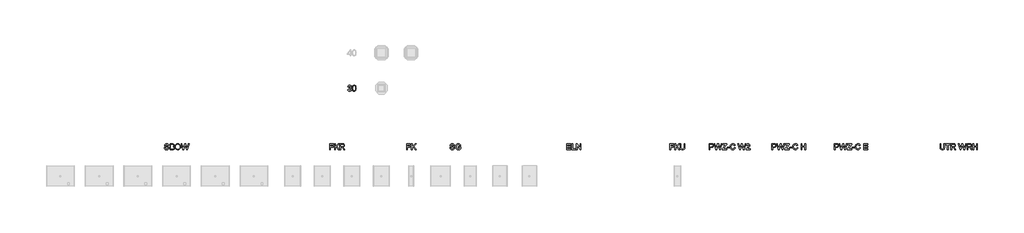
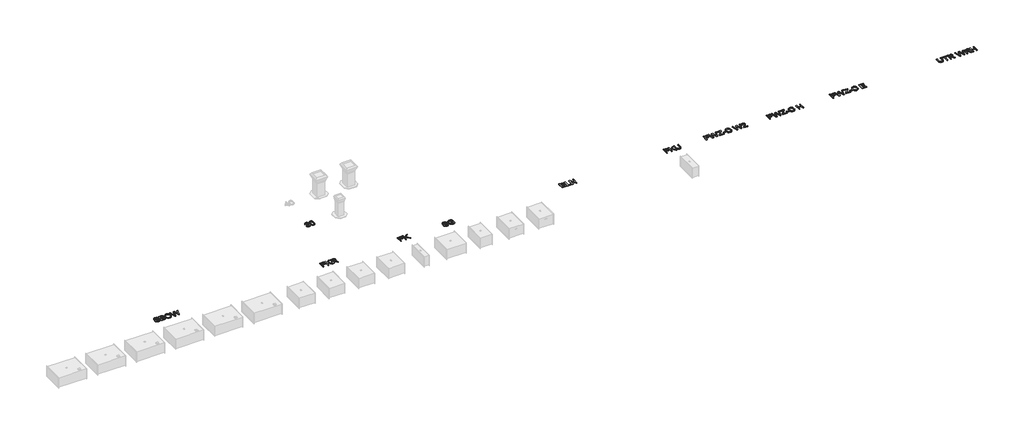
# One storey, part 7 of 9: 11 proxies.
"""IFC4 building model written with IfcOpenShell, lengths in millimetres."""

from ifc_helpers import new_model, si_unit, origin, origin_with_axes, place, context, project, spatial, polyline, outline, extrude, element, save

model = new_model("IFC4")

# Units and contexts
model_context = context("Model", 3, world=origin())
ifc_project = project(units=[si_unit("LENGTHUNIT", "METRE", prefix="MILLI")], contexts=[model_context])

# Site, building, storey
site = spatial("IfcSite", under=ifc_project)
building = spatial("IfcBuilding", under=site)
storey = spatial("IfcBuildingStorey", under=building, Name="KORF_Уровень 1", Elevation=0.0)

# Proxies
placement = place(None, origin())
element("IfcBuildingElementProxy", 1, Name="Текст модели 1", ObjectType="Текст модели 1", at=placement, inside=storey, context=model_context, shape_type="SweptSolid", body=[
    extrude(outline(polyline([(30488.5496219, -4242.5702672), (30488.5496219, -3941.2013368), (30691.0318721, -3941.2013368), (30691.0318721, -3978.8724531), (30526.2207382, -3978.8724531), (30526.2207382, -4068.3413543), (30667.4874244, -4068.3413543), (30667.4874244, -4106.0124706), (30526.2207382, -4106.0124706), (30526.2207382, -4242.5702672), (30488.5496219, -4242.5702672)])), origin_with_axes(), (0.0, 0.0, 1.0), 30.0),
    extrude(outline(polyline([(30742.829657, -4242.5702672), (30742.829657, -3941.2013368), (30780.5007733, -3941.2013368), (30780.5007733, -4088.7220168), (30935.0112113, -3941.2013368), (30987.691913, -3941.2013368), (30857.9767215, -4065.1039927), (30992.4008025, -4242.5702672), (30946.3419767, -4242.5702672), (30831.2684886, -4090.5614268), (30780.5007733, -4138.9746974), (30780.5007733, -4242.5702672), (30742.829657, -4242.5702672)])), origin_with_axes(), (0.0, 0.0, 1.0), 30.0),
    extrude(outline(polyline([(31020.6541397, -4242.5702672), (31020.6541397, -3941.2013368), (31150.516484, -3941.2013368), (31185.4192883, -3943.2338848), (31210.8123431, -3949.3315289), (31229.3719897, -3960.5887179), (31243.7745698, -3978.0999009), (31253.0176049, -3999.8141356), (31256.0986167, -4023.6804801), (31250.994254, -4053.3685571), (31235.6811659, -4077.9798626), (31224.0813868, -4088.0092455), (31209.6995, -4096.0244744), (31172.5894038, -4106.0124706), (31194.0001359, -4122.125702), (31224.5343415, -4160.9004643), (31274.787022, -4242.5702672), (31231.0090646, -4242.5702672), (31191.7928439, -4180.1039044), (31163.4659303, -4138.7539682), (31143.5635143, -4119.2194342), (31125.6476612, -4112.0457353), (31103.7954707, -4110.7213601), (31058.3252561, -4110.7213601), (31058.3252561, -4242.5702672), (31020.6541397, -4242.5702672)]), holes=[polyline([(31058.3252561, -4073.0502438), (31142.6438093, -4073.0502438), (31166.8596417, -4071.7166716), (31185.6492146, -4067.7159549), (31199.7942773, -4060.7813793), (31210.0765791, -4050.6462303), (31216.33977, -4038.3865628), (31218.4275004, -4025.0784317), (31214.4451778, -4006.702726), (31202.49821, -3991.8954757), (31181.9428035, -3982.1282087), (31152.1351648, -3978.8724531), (31058.3252561, -3978.8724531), (31058.3252561, -4073.0502438)])]), origin_with_axes(), (0.0, 0.0, 1.0), 30.0),
])
element("IfcBuildingElementProxy", 2, Name="Текст модели 1", ObjectType="Текст модели 1", at=placement, inside=storey, context=model_context, shape_type="SweptSolid", body=[
    extrude(outline(polyline([(21947.1824062, -4138.9746974), (21984.8535225, -4138.9746974), (21989.176136, -4159.8795918), (21996.9936284, -4176.6826019), (22009.1889165, -4190.0183242), (22026.6449172, -4200.5213552), (22047.9820729, -4207.3363691), (22071.8208262, -4209.6080404), (22092.808494, -4207.8881921), (22111.1841997, -4202.7286471), (22126.0742234, -4194.5616668), (22136.6048456, -4183.8195126), (22142.8680365, -4171.4862687), (22144.9557668, -4158.5460195), (22143.3922684, -4145.9368641), (22138.7017729, -4135.03836), (22129.1736293, -4125.7401426), (22113.0971861, -4117.9318473), (22058.2459806, -4103.5476612), (22022.2395303, -4094.0287146), (21999.2009204, -4084.9696205), (21980.4481357, -4072.2960857), (21967.1583986, -4056.9370125), (21959.2397386, -4039.2234944), (21956.6001853, -4019.4866253), (21959.865138, -3997.4229027), (21969.6599961, -3976.8491021), (21985.7272423, -3959.4114955), (22007.809359, -3946.7563549), (22034.3152568, -3939.0584241), (22063.6538459, -3936.4924472), (22095.4388503, -3939.1779858), (22123.2507291, -3947.2346015), (22146.096201, -3960.4967474), (22162.9819846, -3978.7988767), (22173.6689566, -4001.0005551), (22177.9179936, -4025.9613485), (22140.2468773, -4025.9613485), (22133.3306958, -4003.4837586), (22118.9097216, -3987.2601626), (22096.3769494, -3977.4377133), (22065.1253739, -3974.1635635), (22033.1380344, -3977.4009251), (22011.1938734, -3987.1130098), (21998.5019446, -4001.4052253), (21994.2713016, -4018.3829794), (21997.2695399, -4032.8591359), (22006.2642547, -4044.502601), (22027.527834, -4054.9136615), (22067.7741243, -4065.5454511), (22109.3080015, -4075.6438119), (22134.4343418, -4084.4545857), (22155.9094533, -4098.1214018), (22170.8914475, -4114.9887913), (22179.6930242, -4134.8728131), (22182.6268832, -4157.5895263), (22179.2515658, -4180.8120773), (22169.1256139, -4202.6550707), (22152.6628946, -4221.4538407), (22130.2772752, -4235.5437211), (22103.3575102, -4244.3452978), (22073.2923542, -4247.2791568), (22036.384593, -4244.1153716), (22006.0067373, -4234.6240161), (21981.809299, -4218.7683021), (21963.4427904, -4196.5114414), (21951.6521725, -4169.3985384), (21947.1824062, -4138.9746974)])), origin_with_axes(), (0.0, 0.0, 1.0), 30.0),
    extrude(outline(polyline([(22239.1335576, -4242.5702672), (22239.1335576, -3941.2013368), (22354.1334693, -3941.2013368), (22385.7621238, -3943.4178258), (22410.4562028, -3950.0672929), (22429.3837314, -3961.3152849), (22443.7127351, -3977.3273487), (22452.7350411, -3996.1629068), (22455.7424764, -4015.8813818), (22453.2132877, -4034.0271612), (22445.6257215, -4051.0876887), (22432.9245956, -4066.0145007), (22415.0547277, -4077.7591334), (22436.4010805, -4088.9059578), (22452.174021, -4105.8653178), (22461.9136968, -4127.5151732), (22465.1602554, -4152.733484), (22462.9437664, -4173.748743), (22456.2942994, -4193.2372917), (22446.3706825, -4209.8103755), (22434.3317443, -4222.0792401), (22419.5888733, -4230.9635903), (22401.5534585, -4237.3831311), (22353.2505525, -4242.5702672), (22239.1335576, -4242.5702672)]), holes=[polyline([(22276.8046739, -4063.6324648), (22345.598607, -4063.6324648), (22385.7713209, -4060.3951032), (22399.8336102, -4054.8124939), (22409.941168, -4046.4523756), (22416.038812, -4035.4435069), (22418.0713601, -4021.9146465), (22416.1767678, -4008.7812593), (22410.492991, -3997.3401292), (22401.277547, -3988.4097938), (22388.7879532, -3982.8087904), (22340.3746827, -3978.8724531), (22276.8046739, -3978.8724531), (22276.8046739, -4063.6324648)]), polyline([(22276.8046739, -4204.8991509), (22354.0598929, -4204.8991509), (22382.0189245, -4203.4276229), (22405.6737368, -4195.2238544), (22421.3455098, -4178.4852237), (22425.9532318, -4166.6578175), (22427.4891391, -4153.101366), (22425.6865174, -4137.3560166), (22420.278652, -4123.8179592), (22410.8332818, -4113.2321548), (22396.9181453, -4106.3435644), (22377.2088675, -4102.5635769), (22350.381073, -4101.3035811), (22276.8046739, -4101.3035811), (22276.8046739, -4204.8991509)])]), origin_with_axes(), (0.0, 0.0, 1.0), 30.0),
    extrude(outline(polyline([(22502.8313718, -4095.8589275), (22505.3421664, -4060.5100663), (22512.8745502, -4029.2171041), (22525.4285233, -4001.9800409), (22543.0040856, -3978.7988767), (22564.548175, -3960.2898138), (22589.0077291, -3947.0690546), (22616.3827481, -3939.1365991), (22646.6732319, -3936.4924472), (22686.2021522, -3941.4588542), (22721.6475825, -3956.358075), (22751.0781421, -3980.141646), (22772.5624506, -4011.7611034), (22785.6958378, -4049.6897371), (22790.0736336, -4092.4008368), (22785.4659116, -4135.6821535), (22771.6427456, -4174.1442161), (22749.3674908, -4205.8188559), (22719.4035023, -4228.7379042), (22684.2615747, -4242.6438436), (22646.4525027, -4247.2791568), (22606.316577, -4242.1564), (22570.6688117, -4226.7881296), (22541.3118284, -4202.5631002), (22520.0482491, -4170.8700664), (22507.1355911, -4134.4037636), (22502.8313718, -4095.8589275)]), holes=[polyline([(22540.5024881, -4096.2268095), (22542.385584, -4121.2013985), (22548.0348719, -4143.3708872), (22557.4503517, -4162.7352757), (22570.6320235, -4179.294564), (22586.6555836, -4192.55671), (22604.5967287, -4202.0296713), (22624.4554586, -4207.7134482), (22646.2317735, -4209.6080404), (22668.3805688, -4207.6950541), (22688.4738236, -4201.9560949), (22706.5115376, -4192.3911631), (22722.4937111, -4179.0002584), (22735.5788138, -4162.0914822), (22744.9253157, -4141.9729356), (22750.5332169, -4118.6446186), (22752.4025173, -4092.1065312), (22749.2019439, -4058.7580283), (22739.6002238, -4029.934474), (22723.8456774, -4006.3624352), (22702.1866249, -3988.7684787), (22676.0578062, -3977.8147923), (22646.8939611, -3974.1635635), (22625.8741036, -3975.9224993), (22606.3717593, -3981.1993067), (22588.3869283, -3989.9939856), (22571.9196104, -4002.3065362), (22558.1746194, -4018.730168), (22548.3567687, -4039.8580908), (22542.4660582, -4065.6903047), (22540.5024881, -4096.2268095)])]), origin_with_axes(), (0.0, 0.0, 1.0), 30.0),
    extrude(outline(polyline([(22895.802919, -4242.5702672), (22813.6180813, -3941.2013368), (22852.46642, -3941.2013368), (22900.1439265, -4139.269003), (22914.8592064, -4200.4109906), (22930.6045557, -4146.3323373), (22990.3485918, -3941.2013368), (23046.3402314, -3941.2013368), (23089.7503069, -4089.8992392), (23108.3467417, -4145.0815385), (23122.050346, -4200.4109906), (23136.3241674, -4141.0348365), (23184.4431324, -3941.2013368), (23223.2914711, -3941.2013368), (23141.033057, -4242.5702672), (23100.7867667, -4242.5702672), (23028.5347429, -4010.0688463), (23018.4547762, -3977.6216543), (23007.1240107, -4016.6907222), (22941.2731336, -4242.5702672), (22895.802919, -4242.5702672)])), origin_with_axes(), (0.0, 0.0, 1.0), 30.0),
])
element("IfcBuildingElementProxy", 3, Name="Текст модели 1", ObjectType="Текст модели 1", at=placement, inside=storey, context=model_context, shape_type="SweptSolid", body=[
    extrude(outline(polyline([(34462.4386518, -4242.5702672), (34462.4386518, -3941.2013368), (34664.9209019, -3941.2013368), (34664.9209019, -3978.8724531), (34500.1097681, -3978.8724531), (34500.1097681, -4068.3413543), (34641.3764542, -4068.3413543), (34641.3764542, -4106.0124706), (34500.1097681, -4106.0124706), (34500.1097681, -4242.5702672), (34462.4386518, -4242.5702672)])), origin_with_axes(), (0.0, 0.0, 1.0), 30.0),
    extrude(outline(polyline([(34716.7186868, -4242.5702672), (34716.7186868, -3941.2013368), (34754.3898031, -3941.2013368), (34754.3898031, -4088.7220168), (34908.9002411, -3941.2013368), (34961.5809428, -3941.2013368), (34831.8657513, -4065.1039927), (34966.2898324, -4242.5702672), (34920.2310066, -4242.5702672), (34805.1575185, -4090.5614268), (34754.3898031, -4138.9746974), (34754.3898031, -4242.5702672), (34716.7186868, -4242.5702672)])), origin_with_axes(), (0.0, 0.0, 1.0), 30.0),
])
element("IfcBuildingElementProxy", 4, Name="Текст модели 1", ObjectType="Текст модели 1", at=placement, inside=storey, context=model_context, shape_type="SweptSolid", body=[
    extrude(outline(polyline([(36706.9180504, -4138.9746974), (36744.5891667, -4138.9746974), (36748.9117801, -4159.8795918), (36756.7292725, -4176.6826019), (36768.9245607, -4190.0183242), (36786.3805613, -4200.5213552), (36807.7177171, -4207.3363691), (36831.5564703, -4209.6080404), (36852.5441382, -4207.8881921), (36870.9198438, -4202.7286471), (36885.8098676, -4194.5616668), (36896.3404897, -4183.8195126), (36902.6036807, -4171.4862687), (36904.691411, -4158.5460195), (36903.1279125, -4145.9368641), (36898.4374171, -4135.03836), (36888.9092734, -4125.7401426), (36872.8328302, -4117.9318473), (36817.9816247, -4103.5476612), (36781.9751744, -4094.0287146), (36758.9365645, -4084.9696205), (36740.1837798, -4072.2960857), (36726.8940427, -4056.9370125), (36718.9753828, -4039.2234944), (36716.3358295, -4019.4866253), (36719.6007822, -3997.4229027), (36729.3956403, -3976.8491021), (36745.4628864, -3959.4114955), (36767.5450032, -3946.7563549), (36794.0509009, -3939.0584241), (36823.3894901, -3936.4924472), (36855.1744944, -3939.1779858), (36882.9863733, -3947.2346015), (36905.8318452, -3960.4967474), (36922.7176287, -3978.7988767), (36933.4046007, -4001.0005551), (36937.6536378, -4025.9613485), (36899.9825214, -4025.9613485), (36893.0663399, -4003.4837586), (36878.6453657, -3987.2601626), (36856.1125935, -3977.4377133), (36824.861018, -3974.1635635), (36792.8736786, -3977.4009251), (36770.9295175, -3987.1130098), (36758.2375887, -4001.4052253), (36754.0069458, -4018.3829794), (36757.005184, -4032.8591359), (36765.9998988, -4044.502601), (36787.2634781, -4054.9136615), (36827.5097684, -4065.5454511), (36869.0436457, -4075.6438119), (36894.1699859, -4084.4545857), (36915.6450974, -4098.1214018), (36930.6270916, -4114.9887913), (36939.4286684, -4134.8728131), (36942.3625273, -4157.5895263), (36938.98721, -4180.8120773), (36928.8612581, -4202.6550707), (36912.3985388, -4221.4538407), (36890.0129194, -4235.5437211), (36863.0931544, -4244.3452978), (36833.0279983, -4247.2791568), (36796.1202372, -4244.1153716), (36765.7423814, -4234.6240161), (36741.5449432, -4218.7683021), (36723.1784346, -4196.5114414), (36711.3878166, -4169.3985384), (36706.9180504, -4138.9746974)])), origin_with_axes(), (0.0, 0.0, 1.0), 30.0),
    extrude(outline(polyline([(37140.1358879, -4124.8480288), (37140.1358879, -4087.1769125), (37262.5670159, -4087.1769125), (37262.5670159, -4199.8223794), (37232.8145595, -4220.5157416), (37202.1240041, -4235.3597801), (37170.5689259, -4244.2993126), (37138.2229015, -4247.2791568), (37095.9624573, -4242.5426761), (37057.7671092, -4228.333234), (37026.0372871, -4205.1474713), (37003.1734211, -4173.4820285), (36989.3502551, -4135.4982125), (36984.7425331, -4093.35733), (36989.331861, -4050.9129448), (37003.0998447, -4011.4300096), (37025.4762671, -3978.311433), (37055.890911, -3954.9601234), (37092.9366279, -3941.1093663), (37135.2062692, -3936.4924472), (37166.2371155, -3939.1687887), (37194.1409648, -3947.1978133), (37217.6394272, -3960.0001067), (37235.4541128, -3976.9962549), (37248.6334853, -3999.0047953), (37258.2260084, -4026.8442652), (37223.497948, -4036.6299263), (37215.744835, -4016.7734956), (37206.3178588, -4001.7915014), (37193.8466592, -3990.4975241), (37176.9608756, -3981.7051444), (37156.8285334, -3976.0489588), (37134.617658, -3974.1635635), (37108.617598, -3976.1961116), (37086.3883284, -3982.2937556), (37068.0126227, -3991.6931406), (37053.5732544, -4003.6309113), (37034.1858733, -4032.6568008), (37025.3567054, -4061.094079), (37022.4136494, -4091.8122256), (37025.9545136, -4127.83707), (37036.5771063, -4157.4791617), (37053.9595305, -4180.5269687), (37077.7798897, -4196.7689588), (37105.6561479, -4206.39827), (37135.2062692, -4209.6080404), (37161.2982997, -4207.1892163), (37186.7465367, -4199.932744), (37208.8470475, -4189.9355508), (37224.8958996, -4179.294564), (37224.8958996, -4124.8480288), (37140.1358879, -4124.8480288)])), origin_with_axes(), (0.0, 0.0, 1.0), 30.0),
])
element("IfcBuildingElementProxy", 5, Name="Текст модели 1", ObjectType="Текст модели 1", at=placement, inside=storey, context=model_context, shape_type="SweptSolid", body=[
    extrude(outline(polyline([(42734.5764525, -4242.5702672), (42734.5764525, -3941.2013368), (42951.1853713, -3941.2013368), (42951.1853713, -3978.8724531), (42772.2475688, -3978.8724531), (42772.2475688, -4068.3413543), (42941.7675922, -4068.3413543), (42941.7675922, -4106.0124706), (42772.2475688, -4106.0124706), (42772.2475688, -4204.8991509), (42955.8942608, -4204.8991509), (42955.8942608, -4242.5702672), (42734.5764525, -4242.5702672)])), origin_with_axes(), (0.0, 0.0, 1.0), 30.0),
    extrude(outline(polyline([(43012.4009353, -4242.5702672), (43012.4009353, -3941.2013368), (43050.0720516, -3941.2013368), (43050.0720516, -4204.8991509), (43200.7565168, -4204.8991509), (43200.7565168, -4242.5702672), (43012.4009353, -4242.5702672)])), origin_with_axes(), (0.0, 0.0, 1.0), 30.0),
    extrude(outline(polyline([(43243.1365227, -4242.5702672), (43243.1365227, -3941.2013368), (43283.4563893, -3941.2013368), (43440.9098833, -4179.9567516), (43440.9098833, -3941.2013368), (43478.5809996, -3941.2013368), (43478.5809996, -4242.5702672), (43438.2611329, -4242.5702672), (43280.807639, -4003.7412759), (43280.807639, -4242.5702672), (43243.1365227, -4242.5702672)])), origin_with_axes(), (0.0, 0.0, 1.0), 30.0),
])
element("IfcBuildingElementProxy", 6, Name="Текст модели 1", ObjectType="Текст модели 1", at=placement, inside=storey, context=model_context, shape_type="SweptSolid", body=[
    extrude(outline(polyline([(31425.065003, -1134.5575301), (31462.7361193, -1129.8486405), (31471.169814, -1153.5218469), (31483.521452, -1169.5063196), (31500.3980386, -1178.611399), (31522.4065789, -1181.6464254), (31548.231895, -1177.4709648), (31568.1710991, -1164.9445829), (31580.9182102, -1146.2561775), (31585.1672473, -1123.5946466), (31580.9549984, -1102.0827469), (31568.3182519, -1084.6359433), (31549.1883882, -1073.0752516), (31525.4967877, -1069.2216877), (31499.0828604, -1073.3419661), (31503.2767152, -1035.6708498), (31509.3099799, -1036.1123082), (31531.8795403, -1033.4083755), (31552.0578677, -1025.2965775), (31566.2949009, -1011.5745791), (31571.0405787, -992.0400451), (31567.600882, -975.7704639), (31557.2817921, -962.5726973), (31541.5364427, -953.8263029), (31521.8179677, -950.9108381), (31502.0627046, -953.853894), (31485.912685, -962.6830619), (31474.122067, -977.3983417), (31467.4450088, -997.9997335), (31429.7738925, -993.2908439), (31440.8655347, -959.4640945), (31460.6024037, -934.2089955), (31487.6049422, -918.4820402), (31520.4935925, -913.2397218), (31544.175996, -915.8240928), (31565.9270189, -923.5772058), (31584.2659364, -935.8092822), (31597.7120233, -951.8305431), (31605.9617771, -970.2890222), (31608.711695, -989.8327532), (31606.0997328, -1008.0429119), (31598.2638463, -1024.5608135), (31585.3144001, -1038.6322998), (31567.3617587, -1049.5032128), (31590.9429946, -1059.0313565), (31608.4173894, -1075.2549524), (31619.23312, -1097.291084), (31622.8383636, -1124.2568342), (31621.0357418, -1143.3683039), (31615.6278765, -1160.9714573), (31606.6147676, -1177.0662946), (31593.9964152, -1191.6528157), (31578.6235463, -1203.7561334), (31561.3468881, -1212.4013602), (31542.1664406, -1217.5884964), (31521.0822037, -1219.3175418), (31502.0259164, -1217.8414152), (31484.6618862, -1213.4130357), (31468.9901132, -1206.0324032), (31455.0105974, -1195.6995177), (31443.2889573, -1183.0213844), (31434.3908116, -1168.6050087), (31428.3161601, -1152.4503906), (31425.065003, -1134.5575301)])), origin_with_axes(), (0.0, 0.0, 1.0), 30.0),
    extrude(outline(polyline([(31655.8005904, -1066.3522082), (31658.5689024, -1018.1136815), (31666.8738384, -979.6424219), (31680.632625, -950.349818), (31699.7624888, -929.6472588), (31724.4013854, -917.341606), (31754.6872707, -913.2397218), (31777.9006246, -915.6677429), (31798.6859573, -922.9518064), (31816.0683816, -934.8068037), (31829.0730101, -950.9476263), (31838.8954594, -971.2363183), (31846.7313459, -995.5349241), (31851.8632997, -1026.3910264), (31853.573951, -1066.3522082), (31850.8332301, -1114.3148233), (31842.6110675, -1152.6941124), (31828.9350543, -1182.0143074), (31809.8327817, -1202.7996402), (31785.1387028, -1215.1880664), (31754.6872707, -1219.3175418), (31733.9387261, -1217.524117), (31715.5446264, -1212.1438428), (31699.5049714, -1203.1767192), (31685.8197612, -1190.6227461), (31672.6863739, -1167.9290256), (31663.3053831, -1139.6526957), (31657.6767885, -1105.7937566), (31655.8005904, -1066.3522082)]), holes=[polyline([(31693.4717067, -1066.2786318), (31697.8862906, -1125.5352241), (31703.4045205, -1145.8032228), (31711.1300424, -1159.8310231), (31730.8485174, -1176.1925749), (31754.6872707, -1181.6464254), (31778.526024, -1176.1741808), (31798.2444989, -1159.7574467), (31805.9700208, -1145.7066538), (31811.4882507, -1125.4432536), (31815.9028347, -1066.2786318), (31811.6354035, -1008.3556116), (31806.3011146, -988.1542916), (31798.8331101, -973.7930982), (31779.1514233, -956.6314031), (31754.2458123, -950.9108381), (31730.6645764, -955.9508214), (31711.7186536, -971.0707714), (31703.7356143, -986.7057562), (31698.0334434, -1007.7853945), (31693.4717067, -1066.2786318)])]), origin_with_axes(), (0.0, 0.0, 1.0), 30.0),
])
element("IfcBuildingElementProxy", 7, Name="Текст модели 1", ObjectType="Текст модели 1", at=placement, inside=storey, context=model_context, shape_type="SweptSolid", body=[
    extrude(outline(polyline([(48074.7269675, -4242.5702672), (48074.7269675, -3941.2013368), (48277.2092176, -3941.2013368), (48277.2092176, -3978.8724531), (48112.3980838, -3978.8724531), (48112.3980838, -4068.3413543), (48253.6647699, -4068.3413543), (48253.6647699, -4106.0124706), (48112.3980838, -4106.0124706), (48112.3980838, -4242.5702672), (48074.7269675, -4242.5702672)])), origin_with_axes(), (0.0, 0.0, 1.0), 30.0),
    extrude(outline(polyline([(48329.0070025, -4242.5702672), (48329.0070025, -3941.2013368), (48366.6781188, -3941.2013368), (48366.6781188, -4088.7220168), (48521.1885568, -3941.2013368), (48573.8692585, -3941.2013368), (48444.154067, -4065.1039927), (48578.5781481, -4242.5702672), (48532.5193223, -4242.5702672), (48417.4458342, -4090.5614268), (48366.6781188, -4138.9746974), (48366.6781188, -4242.5702672), (48329.0070025, -4242.5702672)])), origin_with_axes(), (0.0, 0.0, 1.0), 30.0),
    extrude(outline(polyline([(48804.6048459, -3941.2013368), (48842.2759622, -3941.2013368), (48842.2759622, -4115.0623677), (48839.7191823, -4155.7777075), (48832.0488427, -4187.1304505), (48817.719839, -4211.3186917), (48795.1870668, -4230.540526), (48764.3953438, -4243.0944991), (48725.2894877, -4247.2791568), (48687.0389573, -4243.637125), (48656.4587664, -4232.7110297), (48633.5397181, -4214.87795), (48618.2726153, -4190.5149649), (48609.6917678, -4157.8378467), (48606.8314853, -4115.0623677), (48606.8314853, -3941.2013368), (48644.5026016, -3941.2013368), (48644.5026016, -4113.7379925), (48646.3604057, -4147.5923331), (48651.9338179, -4171.164372), (48662.0321787, -4187.4891355), (48677.4648284, -4199.6016502), (48697.5879735, -4207.1064429), (48721.7578206, -4209.6080404), (48760.0727304, -4204.6600276), (48774.4155297, -4198.4750116), (48785.5485585, -4189.8159891), (48793.8856843, -4177.6390951), (48799.8407741, -4160.9004643), (48804.6048459, -4113.7379925), (48804.6048459, -3941.2013368)])), origin_with_axes(), (0.0, 0.0, 1.0), 30.0),
])
element("IfcBuildingElementProxy", 8, Name="Текст модели 1", ObjectType="Текст модели 1", at=placement, inside=storey, context=model_context, shape_type="SweptSolid", body=[
    extrude(outline(polyline([(56573.0015895, -4242.5702672), (56573.0015895, -3941.2013368), (56684.6905633, -3941.2013368), (56729.7193195, -3944.0708163), (56749.7964794, -3949.4326964), (56766.323578, -3958.1606967), (56779.6317092, -3970.6502905), (56790.0519667, -3987.2969508), (56796.7842072, -4006.9326523), (56799.0282874, -4028.3893696), (56797.5130734, -4046.8892355), (56792.9674315, -4063.9083763), (56785.3913617, -4079.446792), (56774.7848639, -4093.5044828), (56760.2236347, -4105.157145), (56740.7833705, -4113.4804751), (56716.4640714, -4118.4744732), (56687.2657372, -4120.1391392), (56610.6727059, -4120.1391392), (56610.6727059, -4242.5702672), (56573.0015895, -4242.5702672)]), holes=[polyline([(56610.6727059, -4082.4680229), (56689.4730292, -4082.4680229), (56722.8767144, -4079.0099322), (56744.9496341, -4068.6356599), (56757.2552868, -4051.9889996), (56761.3571711, -4029.7137448), (56758.938347, -4012.791173), (56751.6818746, -3998.5173516), (56740.4890649, -3987.7751974), (56726.2612287, -3981.447627), (56688.5901124, -3978.8724531), (56610.6727059, -3978.8724531), (56610.6727059, -4082.4680229)])]), origin_with_axes(), (0.0, 0.0, 1.0), 30.0),
    extrude(outline(polyline([(56904.7575728, -4242.5702672), (56822.5727351, -3941.2013368), (56861.4210738, -3941.2013368), (56909.0985803, -4139.269003), (56923.8138601, -4200.4109906), (56939.5592095, -4146.3323373), (56999.3032456, -3941.2013368), (57055.2948852, -3941.2013368), (57098.7049607, -4089.8992392), (57117.3013955, -4145.0815385), (57131.0049998, -4200.4109906), (57145.2788212, -4141.0348365), (57193.3977862, -3941.2013368), (57232.2461249, -3941.2013368), (57149.9877108, -4242.5702672), (57109.7414205, -4242.5702672), (57037.4893967, -4010.0688463), (57027.40943, -3977.6216543), (57016.0786645, -4016.6907222), (56950.2277874, -4242.5702672), (56904.7575728, -4242.5702672)])), origin_with_axes(), (0.0, 0.0, 1.0), 30.0),
    extrude(outline(polyline([(57246.3727935, -4242.5702672), (57246.3727935, -4203.5011993), (57400.5153495, -4014.7777358), (57429.7987563, -3978.8724531), (57265.2083517, -3978.8724531), (57265.2083517, -3941.2013368), (57477.1083809, -3941.2013368), (57477.1083809, -3978.8724531), (57308.3976979, -4185.4014052), (57292.5051957, -4204.8991509), (57481.8172704, -4204.8991509), (57481.8172704, -4242.5702672), (57246.3727935, -4242.5702672)])), origin_with_axes(), (0.0, 0.0, 1.0), 30.0),
    extrude(outline(polyline([(57500.6528286, -4153.101366), (57500.6528286, -4115.4302497), (57618.375067, -4115.4302497), (57618.375067, -4153.101366), (57500.6528286, -4153.101366)])), origin_with_axes(), (0.0, 0.0, 1.0), 30.0),
    extrude(outline(polyline([(57877.3639916, -4135.4430302), (57915.035108, -4145.1551149), (57907.580899, -4168.5823002), (57897.6526837, -4189.052634), (57885.2504619, -4206.5661162), (57870.3742337, -4221.1227469), (57853.3596915, -4232.5661762), (57834.5425274, -4240.7400543), (57813.9227416, -4245.6443811), (57791.500334, -4247.2791568), (57747.80515, -4242.3311439), (57713.1046808, -4227.4871054), (57686.5068125, -4203.262076), (57667.1194314, -4170.1710906), (57655.2828282, -4131.2675696), (57651.3372938, -4089.6049336), (57655.797863, -4045.6614293), (57669.1795706, -4007.7144015), (57690.7834407, -3976.9686637), (57719.9104977, -3954.6290296), (57754.4546171, -3941.0265928), (57792.3096744, -3936.4924472), (57833.6136254, -3942.3601651), (57851.5823616, -3949.6948123), (57867.7622716, -3959.9633185), (57881.8866409, -3972.8943707), (57893.6887552, -3988.2166558), (57910.3262184, -4026.0349249), (57872.6551021, -4035.0112455), (57859.5952913, -4007.5396575), (57841.7530145, -3988.6949023), (57818.9075426, -3977.7963982), (57790.8381464, -3974.1635635), (57758.4829249, -3978.1918714), (57731.9034508, -3990.2767949), (57711.7343204, -4009.1491413), (57698.6101302, -4033.5397176), (57691.4088401, -4061.1124731), (57689.0084101, -4089.5313572), (57691.8502985, -4124.332994), (57700.3759638, -4154.4257412), (57714.9073026, -4178.6599676), (57735.7662117, -4195.886042), (57760.7729903, -4206.1775408), (57787.7479376, -4209.6080404), (57819.1926512, -4204.9359391), (57845.3950463, -4190.9196351), (57865.1779006, -4167.7062812), (57877.3639916, -4135.4430302)])), origin_with_axes(), (0.0, 0.0, 1.0), 30.0),
    extrude(outline(polyline([(58084.5551313, -4242.5702672), (58084.5551313, -3941.2013368), (58301.1640501, -3941.2013368), (58301.1640501, -3978.8724531), (58122.2262476, -3978.8724531), (58122.2262476, -4068.3413543), (58291.746271, -4068.3413543), (58291.746271, -4106.0124706), (58122.2262476, -4106.0124706), (58122.2262476, -4204.8991509), (58305.8729396, -4204.8991509), (58305.8729396, -4242.5702672), (58084.5551313, -4242.5702672)])), origin_with_axes(), (0.0, 0.0, 1.0), 30.0),
])
element("IfcBuildingElementProxy", 9, Name="Текст модели 1", ObjectType="Текст модели 1", at=placement, inside=storey, context=model_context, shape_type="SweptSolid", body=[
    extrude(outline(polyline([(50107.7712712, -4242.5702672), (50107.7712712, -3941.2013368), (50219.4602449, -3941.2013368), (50264.4890011, -3944.0708163), (50284.566161, -3949.4326964), (50301.0932597, -3958.1606967), (50314.4013908, -3970.6502905), (50324.8216483, -3987.2969508), (50331.5538889, -4006.9326523), (50333.797969, -4028.3893696), (50332.2827551, -4046.8892355), (50327.7371132, -4063.9083763), (50320.1610433, -4079.446792), (50309.5545455, -4093.5044828), (50294.9933163, -4105.157145), (50275.5530521, -4113.4804751), (50251.233753, -4118.4744732), (50222.0354189, -4120.1391392), (50145.4423875, -4120.1391392), (50145.4423875, -4242.5702672), (50107.7712712, -4242.5702672)]), holes=[polyline([(50145.4423875, -4082.4680229), (50224.2427109, -4082.4680229), (50257.646396, -4079.0099322), (50279.7193157, -4068.6356599), (50292.0249685, -4051.9889996), (50296.1268527, -4029.7137448), (50293.7080286, -4012.791173), (50286.4515562, -3998.5173516), (50275.2587465, -3987.7751974), (50261.0309104, -3981.447627), (50223.3597941, -3978.8724531), (50145.4423875, -3978.8724531), (50145.4423875, -4082.4680229)])]), origin_with_axes(), (0.0, 0.0, 1.0), 30.0),
    extrude(outline(polyline([(50439.5272544, -4242.5702672), (50357.3424167, -3941.2013368), (50396.1907554, -3941.2013368), (50443.868262, -4139.269003), (50458.5835418, -4200.4109906), (50474.3288912, -4146.3323373), (50534.0729272, -3941.2013368), (50590.0645669, -3941.2013368), (50633.4746423, -4089.8992392), (50652.0710771, -4145.0815385), (50665.7746815, -4200.4109906), (50680.0485029, -4141.0348365), (50728.1674679, -3941.2013368), (50767.0158065, -3941.2013368), (50684.7573924, -4242.5702672), (50644.5111021, -4242.5702672), (50572.2590783, -4010.0688463), (50562.1791116, -3977.6216543), (50550.8483462, -4016.6907222), (50484.997469, -4242.5702672), (50439.5272544, -4242.5702672)])), origin_with_axes(), (0.0, 0.0, 1.0), 30.0),
    extrude(outline(polyline([(50781.1424752, -4242.5702672), (50781.1424752, -4203.5011993), (50935.2850311, -4014.7777358), (50964.568438, -3978.8724531), (50799.9780333, -3978.8724531), (50799.9780333, -3941.2013368), (51011.8780625, -3941.2013368), (51011.8780625, -3978.8724531), (50843.1673795, -4185.4014052), (50827.2748774, -4204.8991509), (51016.5869521, -4204.8991509), (51016.5869521, -4242.5702672), (50781.1424752, -4242.5702672)])), origin_with_axes(), (0.0, 0.0, 1.0), 30.0),
    extrude(outline(polyline([(51035.4225102, -4153.101366), (51035.4225102, -4115.4302497), (51153.1447487, -4115.4302497), (51153.1447487, -4153.101366), (51035.4225102, -4153.101366)])), origin_with_axes(), (0.0, 0.0, 1.0), 30.0),
    extrude(outline(polyline([(51412.1336733, -4135.4430302), (51449.8047896, -4145.1551149), (51442.3505807, -4168.5823002), (51432.4223653, -4189.052634), (51420.0201436, -4206.5661162), (51405.1439154, -4221.1227469), (51388.1293731, -4232.5661762), (51369.312209, -4240.7400543), (51348.6924232, -4245.6443811), (51326.2700156, -4247.2791568), (51282.5748316, -4242.3311439), (51247.8743624, -4227.4871054), (51221.2764942, -4203.262076), (51201.889113, -4170.1710906), (51190.0525098, -4131.2675696), (51186.1069754, -4089.6049336), (51190.5675446, -4045.6614293), (51203.9492522, -4007.7144015), (51225.5531224, -3976.9686637), (51254.6801793, -3954.6290296), (51289.2242987, -3941.0265928), (51327.079356, -3936.4924472), (51368.383307, -3942.3601651), (51386.3520432, -3949.6948123), (51402.5319532, -3959.9633185), (51416.6563226, -3972.8943707), (51428.4584368, -3988.2166558), (51445.0959001, -4026.0349249), (51407.4247837, -4035.0112455), (51394.3649729, -4007.5396575), (51376.5226962, -3988.6949023), (51353.6772243, -3977.7963982), (51325.607828, -3974.1635635), (51293.2526065, -3978.1918714), (51266.6731324, -3990.2767949), (51246.504002, -4009.1491413), (51233.3798118, -4033.5397176), (51226.1785218, -4061.1124731), (51223.7780918, -4089.5313572), (51226.6199802, -4124.332994), (51235.1456454, -4154.4257412), (51249.6769842, -4178.6599676), (51270.5358933, -4195.886042), (51295.542672, -4206.1775408), (51322.5176193, -4209.6080404), (51353.9623328, -4204.9359391), (51380.1647279, -4190.9196351), (51399.9475822, -4167.7062812), (51412.1336733, -4135.4430302)])), origin_with_axes(), (0.0, 0.0, 1.0), 30.0),
    extrude(outline(polyline([(51673.2563135, -4242.5702672), (51591.0714757, -3941.2013368), (51629.9198144, -3941.2013368), (51677.597321, -4139.269003), (51692.3126008, -4200.4109906), (51708.0579502, -4146.3323373), (51767.8019862, -3941.2013368), (51823.7936259, -3941.2013368), (51867.2037013, -4089.8992392), (51885.8001362, -4145.0815385), (51899.5037405, -4200.4109906), (51913.7775619, -4141.0348365), (51961.8965269, -3941.2013368), (52000.7448656, -3941.2013368), (51918.4864514, -4242.5702672), (51878.2401612, -4242.5702672), (51805.9881373, -4010.0688463), (51795.9081707, -3977.6216543), (51784.5774052, -4016.6907222), (51718.7265281, -4242.5702672), (51673.2563135, -4242.5702672)])), origin_with_axes(), (0.0, 0.0, 1.0), 30.0),
    extrude(outline(polyline([(52217.3537843, -4204.8991509), (52217.3537843, -4242.5702672), (52019.5804237, -4242.5702672), (52023.6271257, -4216.5977984), (52032.916146, -4196.2999093), (52046.5093858, -4176.6090255), (52066.1726784, -4155.9984367), (52093.6718575, -4132.9414327), (52134.322818, -4096.8338148), (52158.7133943, -4070.1807643), (52170.9086824, -4048.549303), (52174.9737785, -4027.5064528), (52171.1386087, -4008.6433035), (52159.6330993, -3992.9623335), (52141.9471724, -3982.3949232), (52119.57075, -3978.8724531), (52096.0722876, -3982.3121497), (52077.8161436, -3992.6312397), (52066.0347227, -4009.0203826), (52061.9604296, -4030.670238), (52024.2893133, -4025.9613485), (52033.4219838, -3989.5226368), (52041.9683424, -3974.9866995), (52053.1680499, -3962.9063745), (52066.7635889, -3953.4104205), (52082.4974419, -3946.6275962), (52120.3800904, -3941.2013368), (52140.5699141, -3942.7096529), (52158.5386503, -3947.2346015), (52174.286299, -3954.7761824), (52187.8128601, -3965.3343957), (52198.6768753, -3978.127492), (52206.4368861, -3992.3737223), (52211.0928926, -4008.0730864), (52212.6448948, -4025.2255845), (52210.9710317, -4043.2426052), (52205.9494425, -4060.9469262), (52197.0375011, -4078.9547499), (52183.6925818, -4097.8822785), (52162.4198054, -4120.4794301), (52129.7242931, -4149.4961224), (52086.387794, -4185.732499), (52069.3916459, -4204.8991509), (52217.3537843, -4204.8991509)])), origin_with_axes(), (0.0, 0.0, 1.0), 30.0),
])
element("IfcBuildingElementProxy", 10, Name="Текст модели 1", ObjectType="Текст модели 1", at=placement, inside=storey, context=model_context, shape_type="SweptSolid", body=[
    extrude(outline(polyline([(53340.3864304, -4242.5702672), (53340.3864304, -3941.2013368), (53452.0754041, -3941.2013368), (53497.1041603, -3944.0708163), (53517.1813202, -3949.4326964), (53533.7084188, -3958.1606967), (53547.01655, -3970.6502905), (53557.4368075, -3987.2969508), (53564.169048, -4006.9326523), (53566.4131282, -4028.3893696), (53564.8979142, -4046.8892355), (53560.3522723, -4063.9083763), (53552.7762025, -4079.446792), (53542.1697047, -4093.5044828), (53527.6084755, -4105.157145), (53508.1682113, -4113.4804751), (53483.8489122, -4118.4744732), (53454.6505781, -4120.1391392), (53378.0575467, -4120.1391392), (53378.0575467, -4242.5702672), (53340.3864304, -4242.5702672)]), holes=[polyline([(53378.0575467, -4082.4680229), (53456.85787, -4082.4680229), (53490.2615552, -4079.0099322), (53512.3344749, -4068.6356599), (53524.6401276, -4051.9889996), (53528.7420119, -4029.7137448), (53526.3231878, -4012.791173), (53519.0667154, -3998.5173516), (53507.8739057, -3987.7751974), (53493.6460696, -3981.447627), (53455.9749533, -3978.8724531), (53378.0575467, -3978.8724531), (53378.0575467, -4082.4680229)])]), origin_with_axes(), (0.0, 0.0, 1.0), 30.0),
    extrude(outline(polyline([(53672.1424136, -4242.5702672), (53589.9575759, -3941.2013368), (53628.8059146, -3941.2013368), (53676.4834212, -4139.269003), (53691.198701, -4200.4109906), (53706.9440504, -4146.3323373), (53766.6880864, -3941.2013368), (53822.679726, -3941.2013368), (53866.0898015, -4089.8992392), (53884.6862363, -4145.0815385), (53898.3898406, -4200.4109906), (53912.6636621, -4141.0348365), (53960.782627, -3941.2013368), (53999.6309657, -3941.2013368), (53917.3725516, -4242.5702672), (53877.1262613, -4242.5702672), (53804.8742375, -4010.0688463), (53794.7942708, -3977.6216543), (53783.4635054, -4016.6907222), (53717.6126282, -4242.5702672), (53672.1424136, -4242.5702672)])), origin_with_axes(), (0.0, 0.0, 1.0), 30.0),
    extrude(outline(polyline([(54013.7576343, -4242.5702672), (54013.7576343, -4203.5011993), (54167.9001903, -4014.7777358), (54197.1835971, -3978.8724531), (54032.5931925, -3978.8724531), (54032.5931925, -3941.2013368), (54244.4932217, -3941.2013368), (54244.4932217, -3978.8724531), (54075.7825387, -4185.4014052), (54059.8900365, -4204.8991509), (54249.2021113, -4204.8991509), (54249.2021113, -4242.5702672), (54013.7576343, -4242.5702672)])), origin_with_axes(), (0.0, 0.0, 1.0), 30.0),
    extrude(outline(polyline([(54268.0376694, -4153.101366), (54268.0376694, -4115.4302497), (54385.7599079, -4115.4302497), (54385.7599079, -4153.101366), (54268.0376694, -4153.101366)])), origin_with_axes(), (0.0, 0.0, 1.0), 30.0),
    extrude(outline(polyline([(54644.7488325, -4135.4430302), (54682.4199488, -4145.1551149), (54674.9657398, -4168.5823002), (54665.0375245, -4189.052634), (54652.6353027, -4206.5661162), (54637.7590746, -4221.1227469), (54620.7445323, -4232.5661762), (54601.9273682, -4240.7400543), (54581.3075824, -4245.6443811), (54558.8851748, -4247.2791568), (54515.1899908, -4242.3311439), (54480.4895216, -4227.4871054), (54453.8916534, -4203.262076), (54434.5042722, -4170.1710906), (54422.667669, -4131.2675696), (54418.7221346, -4089.6049336), (54423.1827038, -4045.6614293), (54436.5644114, -4007.7144015), (54458.1682816, -3976.9686637), (54487.2953385, -3954.6290296), (54521.8394579, -3941.0265928), (54559.6945152, -3936.4924472), (54600.9984662, -3942.3601651), (54618.9672024, -3949.6948123), (54635.1471124, -3959.9633185), (54649.2714817, -3972.8943707), (54661.073596, -3988.2166558), (54677.7110592, -4026.0349249), (54640.0399429, -4035.0112455), (54626.9801321, -4007.5396575), (54609.1378553, -3988.6949023), (54586.2923834, -3977.7963982), (54558.2229872, -3974.1635635), (54525.8677657, -3978.1918714), (54499.2882916, -3990.2767949), (54479.1191612, -4009.1491413), (54465.994971, -4033.5397176), (54458.793681, -4061.1124731), (54456.3932509, -4089.5313572), (54459.2351393, -4124.332994), (54467.7608046, -4154.4257412), (54482.2921434, -4178.6599676), (54503.1510525, -4195.886042), (54528.1578311, -4206.1775408), (54555.1327784, -4209.6080404), (54586.577492, -4204.9359391), (54612.7798871, -4190.9196351), (54632.5627414, -4167.7062812), (54644.7488325, -4135.4430302)])), origin_with_axes(), (0.0, 0.0, 1.0), 30.0),
    extrude(outline(polyline([(54851.9399721, -4242.5702672), (54851.9399721, -3941.2013368), (54889.6110885, -3941.2013368), (54889.6110885, -4063.6324648), (55049.7133328, -4063.6324648), (55049.7133328, -3941.2013368), (55087.3844491, -3941.2013368), (55087.3844491, -4242.5702672), (55049.7133328, -4242.5702672), (55049.7133328, -4101.3035811), (54889.6110885, -4101.3035811), (54889.6110885, -4242.5702672), (54851.9399721, -4242.5702672)])), origin_with_axes(), (0.0, 0.0, 1.0), 30.0),
])
element("IfcBuildingElementProxy", 11, Name="Текст модели 1", ObjectType="Текст модели 1", at=placement, inside=storey, context=model_context, shape_type="SweptSolid", body=[
    extrude(outline(polyline([(62237.7206864, -3941.2013368), (62275.3918027, -3941.2013368), (62275.3918027, -4115.0623677), (62272.8350228, -4155.7777075), (62265.1646832, -4187.1304505), (62250.8356795, -4211.3186917), (62228.3029073, -4230.540526), (62197.5111843, -4243.0944991), (62158.4053282, -4247.2791568), (62120.1547978, -4243.637125), (62089.5746069, -4232.7110297), (62066.6555586, -4214.87795), (62051.3884558, -4190.5149649), (62042.8076083, -4157.8378467), (62039.9473258, -4115.0623677), (62039.9473258, -3941.2013368), (62077.6184421, -3941.2013368), (62077.6184421, -4113.7379925), (62079.4762462, -4147.5923331), (62085.0496584, -4171.164372), (62095.1480192, -4187.4891355), (62110.5806689, -4199.6016502), (62130.703814, -4207.1064429), (62154.8736611, -4209.6080404), (62193.1885709, -4204.6600276), (62207.5313702, -4198.4750116), (62218.664399, -4189.8159891), (62227.0015248, -4177.6390951), (62232.9566146, -4160.9004643), (62237.7206864, -4113.7379925), (62237.7206864, -3941.2013368)])), origin_with_axes(), (0.0, 0.0, 1.0), 30.0),
    extrude(outline(polyline([(62416.6584889, -4242.5702672), (62416.6584889, -3978.8724531), (62317.7718086, -3978.8724531), (62317.7718086, -3941.2013368), (62553.2162855, -3941.2013368), (62553.2162855, -3978.8724531), (62454.3296052, -3978.8724531), (62454.3296052, -4242.5702672), (62416.6584889, -4242.5702672)])), origin_with_axes(), (0.0, 0.0, 1.0), 30.0),
    extrude(outline(polyline([(62595.5962913, -4242.5702672), (62595.5962913, -3941.2013368), (62725.4586356, -3941.2013368), (62760.3614399, -3943.2338848), (62785.7544946, -3949.3315289), (62804.3141413, -3960.5887179), (62818.7167214, -3978.0999009), (62827.9597565, -3999.8141356), (62831.0407682, -4023.6804801), (62825.9364055, -4053.3685571), (62810.6233175, -4077.9798626), (62799.0235383, -4088.0092455), (62784.6416516, -4096.0244744), (62747.5315553, -4106.0124706), (62768.9422874, -4122.125702), (62799.476493, -4160.9004643), (62849.7291736, -4242.5702672), (62805.9512161, -4242.5702672), (62766.7349955, -4180.1039044), (62738.4080818, -4138.7539682), (62718.5056659, -4119.2194342), (62700.5898127, -4112.0457353), (62678.7376222, -4110.7213601), (62633.2674076, -4110.7213601), (62633.2674076, -4242.5702672), (62595.5962913, -4242.5702672)]), holes=[polyline([(62633.2674076, -4073.0502438), (62717.5859609, -4073.0502438), (62741.8017932, -4071.7166716), (62760.5913661, -4067.7159549), (62774.7364289, -4060.7813793), (62785.0187306, -4050.6462303), (62791.2819216, -4038.3865628), (62793.3696519, -4025.0784317), (62789.3873293, -4006.702726), (62777.4403615, -3991.8954757), (62756.884955, -3982.1282087), (62727.0773164, -3978.8724531), (62633.2674076, -3978.8724531), (62633.2674076, -4073.0502438)])]), origin_with_axes(), (0.0, 0.0, 1.0), 30.0),
    extrude(outline(polyline([(63068.6189607, -4242.5702672), (62986.434123, -3941.2013368), (63025.2824617, -3941.2013368), (63072.9599682, -4139.269003), (63087.6752481, -4200.4109906), (63103.4205974, -4146.3323373), (63163.1646335, -3941.2013368), (63219.1562731, -3941.2013368), (63262.5663486, -4089.8992392), (63281.1627834, -4145.0815385), (63294.8663877, -4200.4109906), (63309.1402092, -4141.0348365), (63357.2591741, -3941.2013368), (63396.1075128, -3941.2013368), (63313.8490987, -4242.5702672), (63273.6028084, -4242.5702672), (63201.3507846, -4010.0688463), (63191.2708179, -3977.6216543), (63179.9400524, -4016.6907222), (63114.0891753, -4242.5702672), (63068.6189607, -4242.5702672)])), origin_with_axes(), (0.0, 0.0, 1.0), 30.0),
    extrude(outline(polyline([(63433.7786291, -4242.5702672), (63433.7786291, -3941.2013368), (63563.6409734, -3941.2013368), (63598.5437777, -3943.2338848), (63623.9368324, -3949.3315289), (63642.4964791, -3960.5887179), (63656.8990592, -3978.0999009), (63666.1420943, -3999.8141356), (63669.223106, -4023.6804801), (63664.1187433, -4053.3685571), (63648.8056553, -4077.9798626), (63637.2058761, -4088.0092455), (63622.8239894, -4096.0244744), (63585.7138931, -4106.0124706), (63607.1246252, -4122.125702), (63637.6588308, -4160.9004643), (63687.9115114, -4242.5702672), (63644.133554, -4242.5702672), (63604.9173333, -4180.1039044), (63576.5904196, -4138.7539682), (63556.6880037, -4119.2194342), (63538.7721505, -4112.0457353), (63516.91996, -4110.7213601), (63471.4497454, -4110.7213601), (63471.4497454, -4242.5702672), (63433.7786291, -4242.5702672)]), holes=[polyline([(63471.4497454, -4073.0502438), (63555.7682987, -4073.0502438), (63579.9841311, -4071.7166716), (63598.773704, -4067.7159549), (63612.9187667, -4060.7813793), (63623.2010684, -4050.6462303), (63629.4642594, -4038.3865628), (63631.5519897, -4025.0784317), (63627.5696671, -4006.702726), (63615.6226993, -3991.8954757), (63595.0672929, -3982.1282087), (63565.2596542, -3978.8724531), (63471.4497454, -3978.8724531), (63471.4497454, -4073.0502438)])]), origin_with_axes(), (0.0, 0.0, 1.0), 30.0),
    extrude(outline(polyline([(63735.1475596, -4242.5702672), (63735.1475596, -3941.2013368), (63772.8186759, -3941.2013368), (63772.8186759, -4063.6324648), (63932.9209202, -4063.6324648), (63932.9209202, -3941.2013368), (63970.5920365, -3941.2013368), (63970.5920365, -4242.5702672), (63932.9209202, -4242.5702672), (63932.9209202, -4101.3035811), (63772.8186759, -4101.3035811), (63772.8186759, -4242.5702672), (63735.1475596, -4242.5702672)])), origin_with_axes(), (0.0, 0.0, 1.0), 30.0),
])

save(model, "model.ifc")
